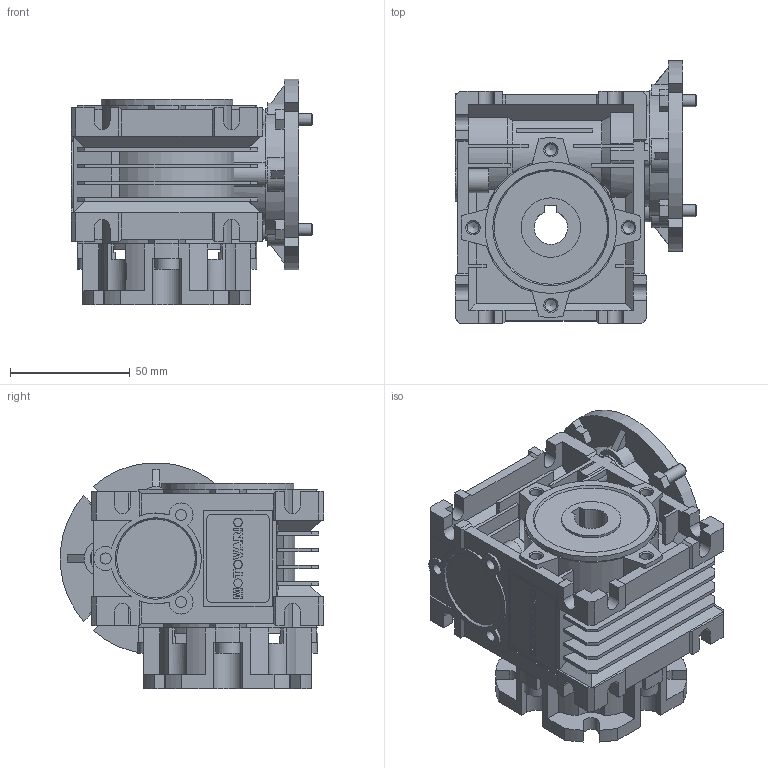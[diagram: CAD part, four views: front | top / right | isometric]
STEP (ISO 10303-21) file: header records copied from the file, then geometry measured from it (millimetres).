
FILE_DESCRIPTION(/* description */ ('STEP AP203'),/* implementation_level */ '2;1');
FILE_NAME(/* name */ 'NMRV0301311412300300NO---_---------------',/* time_stamp */ '2025-11-20T02:04:45+01:00',/* author */ ('License CC BY-ND 4.0'),/* organization */ ('CADENAS'),/* preprocessor_version */ 'ST-DEVELOPER v20',/* originating_system */ 'PARTsolutions',/* authorisation */ ' ');
FILE_SCHEMA (('CONFIG_CONTROL_DESIGN'));
Length unit declared in the file: millimetre
Products named in the file (6): NMRV0301311412300300NO---(---------------); Gear unit 30; 030-14 (63)alc-n; FU 30FA; VB 030-09 (9); 30-56 B14
Assembly tree (5 placements, depth 2):
  NMRV0301311412300300NO---(---------------)
    Gear unit 30
    030-14 (63)alc-n
    FU 30FA
    VB 030-09 (9)
    30-56 B14
Bounding box: 101 x 109.87 x 94.37 mm (x, y, z)
Volume: 361902.8 mm3; surface area: 124988.4 mm2
Topology: 5 solids, 12 shells, 964 faces, 2598 edges, 1693 vertices
Faces by surface type: plane 685, cylinder 230, cone 49
Full cylindrical faces by diameter (mm): 3.545 x3, 4.65 x3, 4.917 x8, 5 x4, 10 x8, 19 x2, 24.8 x2, 30 x2, 37 x1, 38 x1, 50 x1, 55 x2
Entity records: 29817 total; most frequent: CARTESIAN_POINT 5410, ORIENTED_EDGE 5040, DIRECTION 5020, EDGE_CURVE 2520, LINE 1812, VECTOR 1812, VERTEX_POINT 1683, AXIS2_PLACEMENT_3D 1604
